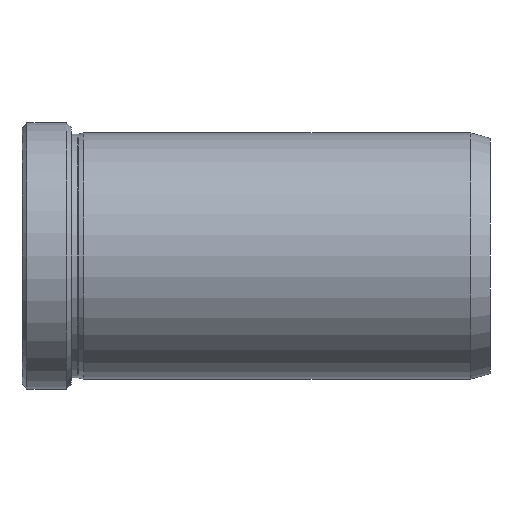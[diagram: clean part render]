
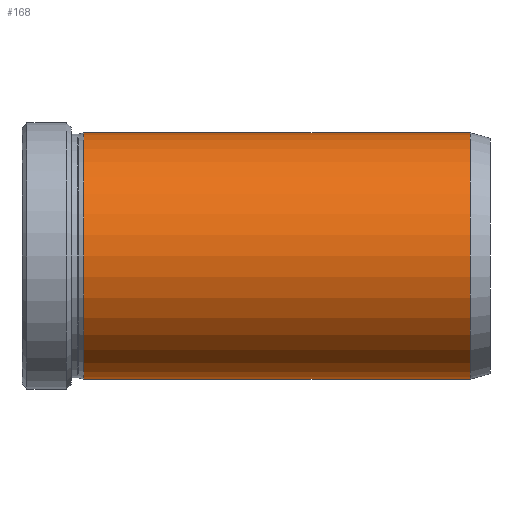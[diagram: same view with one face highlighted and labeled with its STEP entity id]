
A CAD part, front view. The second image highlights one B-rep face of the part: STEP entity #168.
In plain terms, the highlighted cylindrical face has radius 25 mm (diameter 50 mm), a partial arc.
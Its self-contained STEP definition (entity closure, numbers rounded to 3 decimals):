
#5 = DIRECTION ( 'NONE',  ( -1., 0., 0. ) ) ;
#34 = VERTEX_POINT ( 'NONE', #434 ) ;
#46 = DIRECTION ( 'NONE',  ( 0., 0., 1. ) ) ;
#59 = CARTESIAN_POINT ( 'NONE',  ( 91.91, 0., 0. ) ) ;
#71 = ORIENTED_EDGE ( 'NONE', *, *, #295, .F. ) ;
#125 = VERTEX_POINT ( 'NONE', #517 ) ;
#153 = ORIENTED_EDGE ( 'NONE', *, *, #257, .F. ) ;
#168 = ADVANCED_FACE ( 'NONE', ( #669 ), #530, .T. ) ;
#186 = EDGE_CURVE ( 'NONE', #323, #667, #809, .T. ) ;
#188 = CARTESIAN_POINT ( 'NONE',  ( 13.41, 0., 0. ) ) ;
#193 = AXIS2_PLACEMENT_3D ( 'NONE', #188, #266, #767 ) ;
#225 = ORIENTED_EDGE ( 'NONE', *, *, #572, .T. ) ;
#250 = CARTESIAN_POINT ( 'NONE',  ( 0., 0., -25. ) ) ;
#257 = EDGE_CURVE ( 'NONE', #34, #125, #394, .T. ) ;
#266 = DIRECTION ( 'NONE',  ( -1., 0., 0. ) ) ;
#295 = EDGE_CURVE ( 'NONE', #323, #34, #718, .T. ) ;
#323 = VERTEX_POINT ( 'NONE', #408 ) ;
#351 = AXIS2_PLACEMENT_3D ( 'NONE', #59, #691, #46 ) ;
#394 = CIRCLE ( 'NONE', #193, 25. ) ;
#401 = AXIS2_PLACEMENT_3D ( 'NONE', #622, #705, #460 ) ;
#408 = CARTESIAN_POINT ( 'NONE',  ( 91.91, 0., -25. ) ) ;
#434 = CARTESIAN_POINT ( 'NONE',  ( 13.41, 0., -25. ) ) ;
#460 = DIRECTION ( 'NONE',  ( 0., 0., 1. ) ) ;
#489 = VECTOR ( 'NONE', #816, 1000. ) ;
#517 = CARTESIAN_POINT ( 'NONE',  ( 13.41, 0., 25. ) ) ;
#530 = CYLINDRICAL_SURFACE ( 'NONE', #401, 25. ) ;
#532 = ORIENTED_EDGE ( 'NONE', *, *, #186, .T. ) ;
#550 = VECTOR ( 'NONE', #5, 1000. ) ;
#572 = EDGE_CURVE ( 'NONE', #667, #125, #644, .T. ) ;
#622 = CARTESIAN_POINT ( 'NONE',  ( 0., 0., 0. ) ) ;
#644 = LINE ( 'NONE', #813, #489 ) ;
#667 = VERTEX_POINT ( 'NONE', #698 ) ;
#669 = FACE_OUTER_BOUND ( 'NONE', #731, .T. ) ;
#691 = DIRECTION ( 'NONE',  ( -1., 0., 0. ) ) ;
#698 = CARTESIAN_POINT ( 'NONE',  ( 91.91, 0., 25. ) ) ;
#705 = DIRECTION ( 'NONE',  ( -1., 0., 0. ) ) ;
#718 = LINE ( 'NONE', #250, #550 ) ;
#731 = EDGE_LOOP ( 'NONE', ( #71, #532, #225, #153 ) ) ;
#767 = DIRECTION ( 'NONE',  ( 0., 0., 1. ) ) ;
#809 = CIRCLE ( 'NONE', #351, 25. ) ;
#813 = CARTESIAN_POINT ( 'NONE',  ( 0., 0., 25. ) ) ;
#816 = DIRECTION ( 'NONE',  ( -1., 0., 0. ) ) ;
